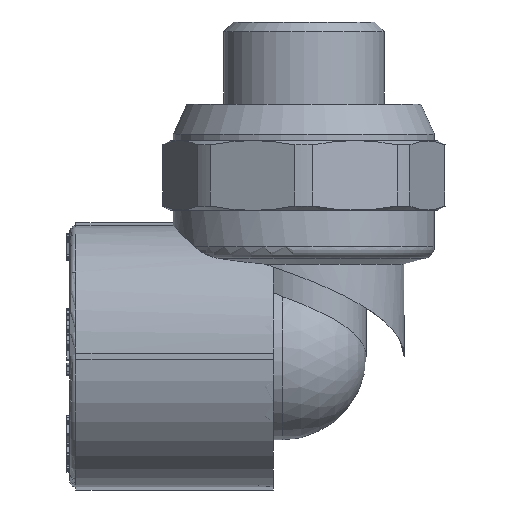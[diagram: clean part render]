
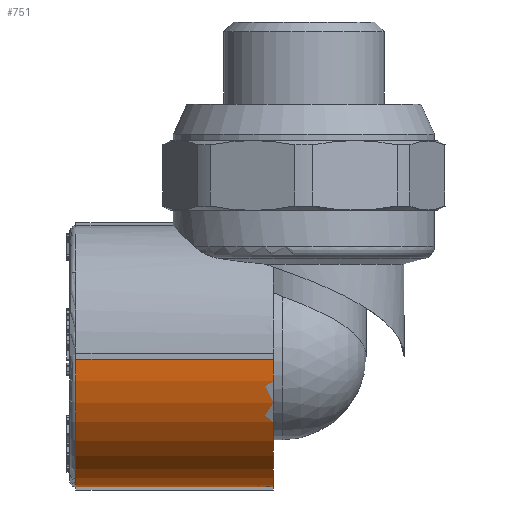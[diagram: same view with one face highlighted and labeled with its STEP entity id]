
A CAD part, left-side view. The second image highlights one B-rep face of the part: STEP entity #751.
In plain terms, the highlighted cylindrical face has radius 21.5 mm (diameter 43 mm), a partial arc.
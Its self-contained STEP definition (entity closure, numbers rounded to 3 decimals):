
#751=ADVANCED_FACE('',(#4284),#4286,.T.);
#4284=FACE_BOUND('',#4285,.T.);
#4285=EDGE_LOOP('',(#9348,#9349,#9350,#9351));
#4286=CYLINDRICAL_SURFACE('',#4287,21.5);
#4287=AXIS2_PLACEMENT_3D('',#4288,#4289,#4290);
#4288=CARTESIAN_POINT('',(0.,5.,0.));
#4289=DIRECTION('',(0.,1.,0.));
#4290=DIRECTION('',(-1.,0.,0.));
#9348=ORIENTED_EDGE('',*,*,#12161,.F.);
#9349=ORIENTED_EDGE('',*,*,#12162,.F.);
#9350=ORIENTED_EDGE('',*,*,#12163,.F.);
#9351=ORIENTED_EDGE('',*,*,#11200,.F.);
#11200=EDGE_CURVE('',#13573,#13575,#13576,.T.);
#12161=EDGE_CURVE('',#15040,#13573,#15041,.T.);
#12162=EDGE_CURVE('',#15042,#15040,#15043,.F.);
#12163=EDGE_CURVE('',#13575,#15042,#15044,.F.);
#13573=VERTEX_POINT('',#18503);
#13575=VERTEX_POINT('',#18508);
#13576=CIRCLE('',#18509,21.5);
#15040=VERTEX_POINT('',#22031);
#15041=LINE('',#22032,#22033);
#15042=VERTEX_POINT('',#22035);
#15043=CIRCLE('',#22036,21.5);
#15044=LINE('',#22040,#22041);
#18503=CARTESIAN_POINT('',(-0.5,37.5,-21.494));
#18508=CARTESIAN_POINT('',(-21.494,37.5,-0.5));
#18509=AXIS2_PLACEMENT_3D('',#18510,#18511,#18512);
#18510=CARTESIAN_POINT('',(0.,37.5,0.));
#18511=DIRECTION('',(0.,1.,0.));
#18512=DIRECTION('',(-0.023,0.,-1.));
#22031=CARTESIAN_POINT('',(-0.5,5.,-21.494));
#22032=CARTESIAN_POINT('',(-0.5,5.,-21.494));
#22033=VECTOR('',#22034,1.);
#22034=DIRECTION('',(0.,1.,0.));
#22035=CARTESIAN_POINT('',(-21.494,5.,-0.5));
#22036=AXIS2_PLACEMENT_3D('',#22037,#22038,#22039);
#22037=CARTESIAN_POINT('',(0.,5.,0.));
#22038=DIRECTION('',(0.,1.,0.));
#22039=DIRECTION('',(-0.023,0.,-1.));
#22040=CARTESIAN_POINT('',(-21.494,5.,-0.5));
#22041=VECTOR('',#22042,1.);
#22042=DIRECTION('',(0.,1.,0.));
